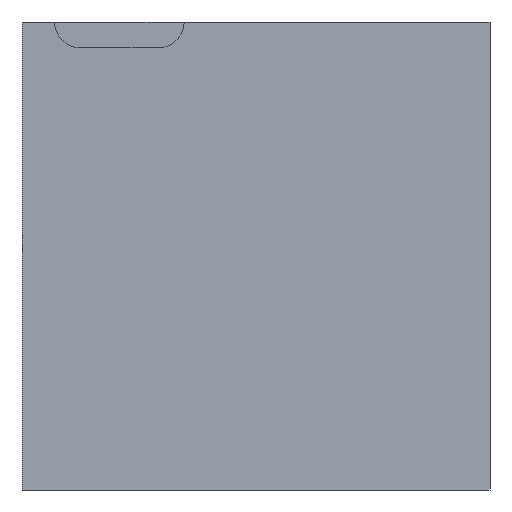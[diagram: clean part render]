
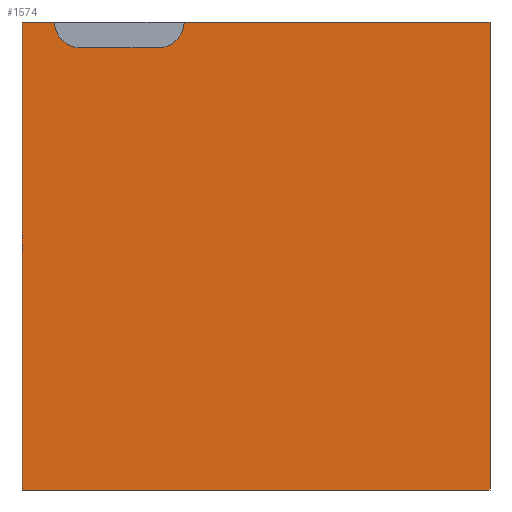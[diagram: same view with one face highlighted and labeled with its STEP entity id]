
A CAD part, left-side view. The second image highlights one B-rep face of the part: STEP entity #1574.
In plain terms, the highlighted planar face has unit normal (-1, 0, 0).
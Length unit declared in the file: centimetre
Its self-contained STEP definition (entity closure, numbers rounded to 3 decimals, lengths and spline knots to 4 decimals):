
#30 = CARTESIAN_POINT ( 'NONE',  ( 0., 653.4884, 1000. ) ) ;
#45 = VECTOR ( 'NONE', #1731, 100. ) ;
#75 = DIRECTION ( 'NONE',  ( -1., 0., 0. ) ) ;
#86 = CARTESIAN_POINT ( 'NONE',  ( 0., 930.3457, 1000. ) ) ;
#87 = CARTESIAN_POINT ( 'NONE',  ( 0., 708.8226, 1000. ) ) ;
#99 = LINE ( 'NONE', #629, #1725 ) ;
#116 = LINE ( 'NONE', #1310, #591 ) ;
#119 = ORIENTED_EDGE ( 'NONE', *, *, #1541, .T. ) ;
#123 = AXIS2_PLACEMENT_3D ( 'NONE', #720, #999, #180 ) ;
#180 = DIRECTION ( 'NONE',  ( 0., 0., -1. ) ) ;
#195 = VERTEX_POINT ( 'NONE', #1671 ) ;
#207 = EDGE_CURVE ( 'NONE', #766, #195, #1062, .T. ) ;
#210 = LINE ( 'NONE', #221, #45 ) ;
#217 = CARTESIAN_POINT ( 'NONE',  ( 0., 1000., 1000. ) ) ;
#221 = CARTESIAN_POINT ( 'NONE',  ( 0., 1000., 1000. ) ) ;
#233 = DIRECTION ( 'NONE',  ( 0., 0., -1. ) ) ;
#267 = VERTEX_POINT ( 'NONE', #1264 ) ;
#278 = DIRECTION ( 'NONE',  ( 0., 0., -1. ) ) ;
#355 = DIRECTION ( 'NONE',  ( 1., 0., 0. ) ) ;
#367 = PLANE ( 'NONE',  #647 ) ;
#383 = CARTESIAN_POINT ( 'NONE',  ( 0., 1000., 1000. ) ) ;
#409 = EDGE_CURVE ( 'NONE', #735, #1014, #1228, .T. ) ;
#466 = CARTESIAN_POINT ( 'NONE',  ( 0., 708.8226, 944.6658 ) ) ;
#480 = ORIENTED_EDGE ( 'NONE', *, *, #851, .F. ) ;
#567 = LINE ( 'NONE', #874, #1193 ) ;
#591 = VECTOR ( 'NONE', #1061, 100. ) ;
#629 = CARTESIAN_POINT ( 'NONE',  ( 0., 1000., 0. ) ) ;
#640 = FACE_OUTER_BOUND ( 'NONE', #668, .T. ) ;
#647 = AXIS2_PLACEMENT_3D ( 'NONE', #1554, #355, #1570 ) ;
#668 = EDGE_LOOP ( 'NONE', ( #480, #868, #1602, #783, #927, #1412, #119, #1472 ) ) ;
#688 = VERTEX_POINT ( 'NONE', #217 ) ;
#720 = CARTESIAN_POINT ( 'NONE',  ( 0., 875.0116, 1000. ) ) ;
#735 = VERTEX_POINT ( 'NONE', #1711 ) ;
#766 = VERTEX_POINT ( 'NONE', #86 ) ;
#782 = CARTESIAN_POINT ( 'NONE',  ( 0., 0., 0. ) ) ;
#783 = ORIENTED_EDGE ( 'NONE', *, *, #207, .F. ) ;
#851 = EDGE_CURVE ( 'NONE', #1415, #735, #1599, .T. ) ;
#868 = ORIENTED_EDGE ( 'NONE', *, *, #908, .F. ) ;
#874 = CARTESIAN_POINT ( 'NONE',  ( 0., 708.8226, 944.6658 ) ) ;
#908 = EDGE_CURVE ( 'NONE', #1478, #1415, #1578, .T. ) ;
#919 = EDGE_CURVE ( 'NONE', #688, #267, #210, .T. ) ;
#920 = DIRECTION ( 'NONE',  ( 0., -1., 0. ) ) ;
#923 = DIRECTION ( 'NONE',  ( 0., -1., 0. ) ) ;
#927 = ORIENTED_EDGE ( 'NONE', *, *, #968, .F. ) ;
#968 = EDGE_CURVE ( 'NONE', #688, #766, #116, .T. ) ;
#999 = DIRECTION ( 'NONE',  ( -1., 0., 0. ) ) ;
#1014 = VERTEX_POINT ( 'NONE', #782 ) ;
#1061 = DIRECTION ( 'NONE',  ( 0., -1., 0. ) ) ;
#1062 = CIRCLE ( 'NONE', #123, 55.3342 ) ;
#1132 = AXIS2_PLACEMENT_3D ( 'NONE', #87, #75, #233 ) ;
#1193 = VECTOR ( 'NONE', #1676, 100. ) ;
#1221 = EDGE_CURVE ( 'NONE', #195, #1478, #567, .T. ) ;
#1228 = LINE ( 'NONE', #1346, #1389 ) ;
#1249 = VECTOR ( 'NONE', #923, 100. ) ;
#1264 = CARTESIAN_POINT ( 'NONE',  ( 0., 1000., 0. ) ) ;
#1310 = CARTESIAN_POINT ( 'NONE',  ( 0., 1000., 1000. ) ) ;
#1346 = CARTESIAN_POINT ( 'NONE',  ( 0., 0., 1000. ) ) ;
#1389 = VECTOR ( 'NONE', #278, 100. ) ;
#1412 = ORIENTED_EDGE ( 'NONE', *, *, #919, .T. ) ;
#1415 = VERTEX_POINT ( 'NONE', #30 ) ;
#1472 = ORIENTED_EDGE ( 'NONE', *, *, #409, .F. ) ;
#1478 = VERTEX_POINT ( 'NONE', #466 ) ;
#1541 = EDGE_CURVE ( 'NONE', #267, #1014, #99, .T. ) ;
#1554 = CARTESIAN_POINT ( 'NONE',  ( 0., 1000., 1000. ) ) ;
#1570 = DIRECTION ( 'NONE',  ( 0., 0., -1. ) ) ;
#1574 = ADVANCED_FACE ( 'NONE', ( #640 ), #367, .F. ) ;
#1578 = CIRCLE ( 'NONE', #1132, 55.3342 ) ;
#1599 = LINE ( 'NONE', #383, #1249 ) ;
#1602 = ORIENTED_EDGE ( 'NONE', *, *, #1221, .F. ) ;
#1671 = CARTESIAN_POINT ( 'NONE',  ( 0., 875.0116, 944.6658 ) ) ;
#1676 = DIRECTION ( 'NONE',  ( 0., -1., 0. ) ) ;
#1711 = CARTESIAN_POINT ( 'NONE',  ( 0., 0., 1000. ) ) ;
#1725 = VECTOR ( 'NONE', #920, 100. ) ;
#1731 = DIRECTION ( 'NONE',  ( 0., 0., -1. ) ) ;
